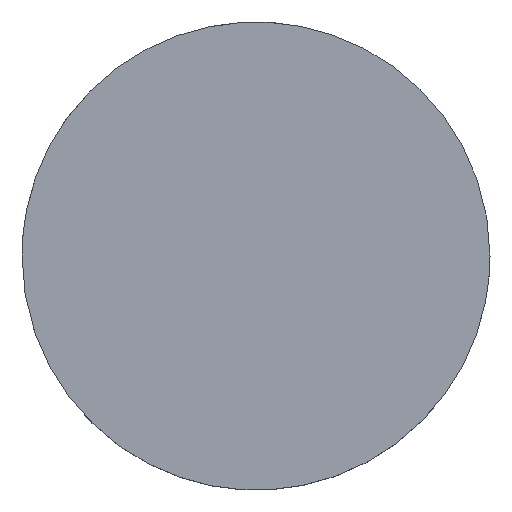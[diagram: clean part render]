
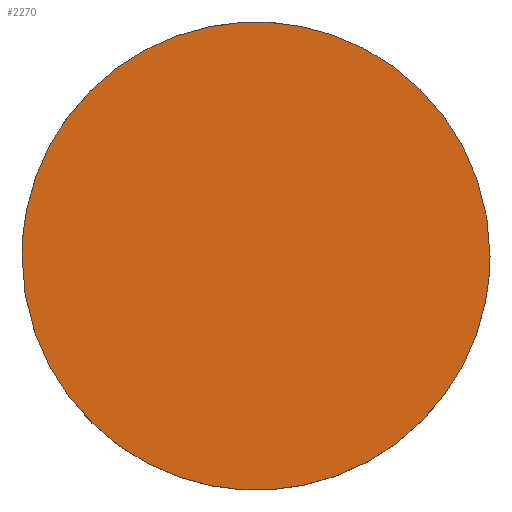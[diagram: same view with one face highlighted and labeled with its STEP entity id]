
A CAD part, top view. The second image highlights one B-rep face of the part: STEP entity #2270.
In plain terms, the highlighted planar face has unit normal (0, 0, 1).
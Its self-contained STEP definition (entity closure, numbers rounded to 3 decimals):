
#190 = CARTESIAN_POINT ('', (-12.5, 0., -23.3));
#200 = VERTEX_POINT ('', #190);
#260 = CARTESIAN_POINT ('', (12.5, 0., -23.3));
#270 = VERTEX_POINT ('', #260);
#280 = CARTESIAN_POINT ('', (12.5, 0., -23.3));
#290 = CARTESIAN_POINT ('', (12.5, 12.5, -23.3));
#300 = CARTESIAN_POINT ('', (0., 12.5, -23.3));
#310 = CARTESIAN_POINT ('', (-12.5, 12.5, -23.3));
#320 = CARTESIAN_POINT ('', (-12.5, 0., -23.3));
#330 = (
   BOUNDED_CURVE ()
   B_SPLINE_CURVE (2, (#280, #290, #300, #310, #320), .UNSPECIFIED., .F., .U.)
   B_SPLINE_CURVE_WITH_KNOTS ((3, 2, 3), (0., 1.571, 3.142), .UNSPECIFIED.)
   CURVE ()
   GEOMETRIC_REPRESENTATION_ITEM ()
   RATIONAL_B_SPLINE_CURVE ((1., 0.707, 1., 0.707, 1.))
   REPRESENTATION_ITEM ('')
);
#340 = EDGE_CURVE ('', #270, #200, #330, .T.);
#580 = CARTESIAN_POINT ('', (-12.5, 0., -23.3));
#590 = CARTESIAN_POINT ('', (-12.5, -12.5, -23.3));
#600 = CARTESIAN_POINT ('', (0., -12.5, -23.3));
#610 = CARTESIAN_POINT ('', (12.5, -12.5, -23.3));
#620 = CARTESIAN_POINT ('', (12.5, 0., -23.3));
#630 = (
   BOUNDED_CURVE ()
   B_SPLINE_CURVE (2, (#580, #590, #600, #610, #620), .UNSPECIFIED., .F., .U.)
   B_SPLINE_CURVE_WITH_KNOTS ((3, 2, 3), (3.142, 4.712, 6.283), .UNSPECIFIED.)
   CURVE ()
   GEOMETRIC_REPRESENTATION_ITEM ()
   RATIONAL_B_SPLINE_CURVE ((1., 0.707, 1., 0.707, 1.))
   REPRESENTATION_ITEM ('')
);
#640 = EDGE_CURVE ('', #200, #270, #630, .T.);
#2180 = ORIENTED_EDGE ('', *, *, #340, .T.);
#2190 = ORIENTED_EDGE ('', *, *, #640, .T.);
#2200 = EDGE_LOOP ('', (#2180, #2190));
#2210 = FACE_OUTER_BOUND ('', #2200, .T.);
#2220 = CARTESIAN_POINT ('', (0., 25.704, -23.3));
#2230 = DIRECTION ('', (0., 0., 1.));
#2240 = DIRECTION ('', (-0.707, -0.707, 0.));
#2250 = AXIS2_PLACEMENT_3D ('', #2220, #2230, #2240);
#2260 = PLANE ('', #2250);
#2270 = ADVANCED_FACE ('', (#2210), #2260, .T.);
